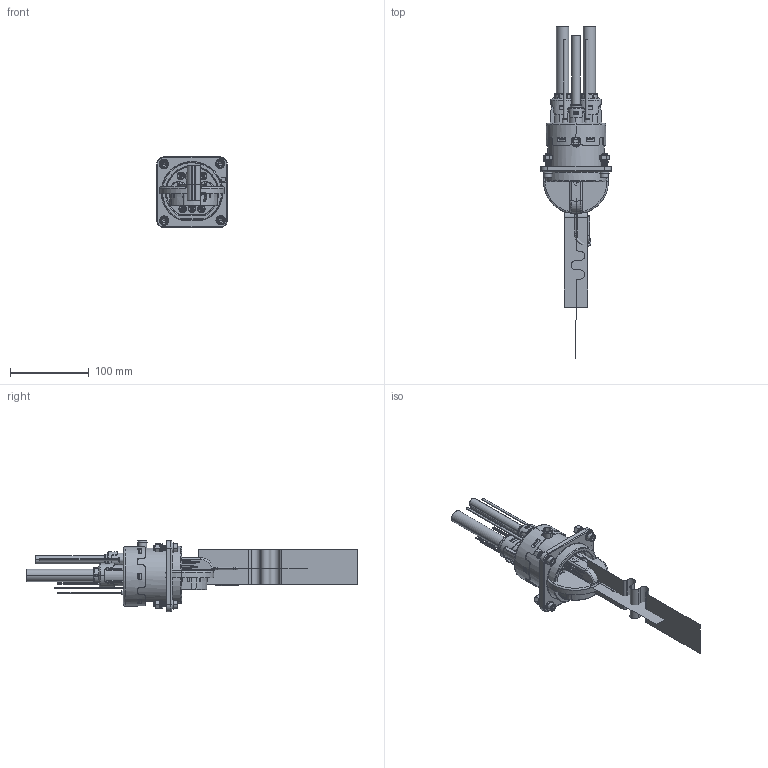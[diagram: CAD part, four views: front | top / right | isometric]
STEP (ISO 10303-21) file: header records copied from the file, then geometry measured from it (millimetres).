
FILE_DESCRIPTION((''),'2;1');
FILE_NAME('INLET_ASM_ASM','2024-10-31T11:18:32',('lenovo'),(''),'CREO PARAMETRIC BY PTC INC, 2021063','CREO PARAMETRIC BY PTC INC, 2021063','');
FILE_SCHEMA(('AUTOMOTIVE_DESIGN { 1 0 10303 214 1 1 1 1 }'));
Products named in the file (4): INLET; CAP; NUT_M6; INLET_ASM_ASM
Assembly tree (3 placements, depth 2):
  INLET_ASM_ASM
    INLET
    CAP
    NUT_M6
Bounding box: 90 x 422.8 x 90.8 mm (x, y, z)
Volume: 41019.7 mm3; surface area: 176296.2 mm2
Topology: 10 solids, 18 shells, 5483 faces, 15638 edges, 10367 vertices
Faces by surface type: plane 3464, cylinder 741, cone 514, torus 451, bspline 307, revolution 4, sphere 2
Entity records: 246960 total; most frequent: CARTESIAN_POINT 71878, ORIENTED_EDGE 31156, DIRECTION 27270, EDGE_CURVE 15597, VERTEX_POINT 10359, VECTOR 9812, LINE 9812, AXIS2_PLACEMENT_3D 8727
